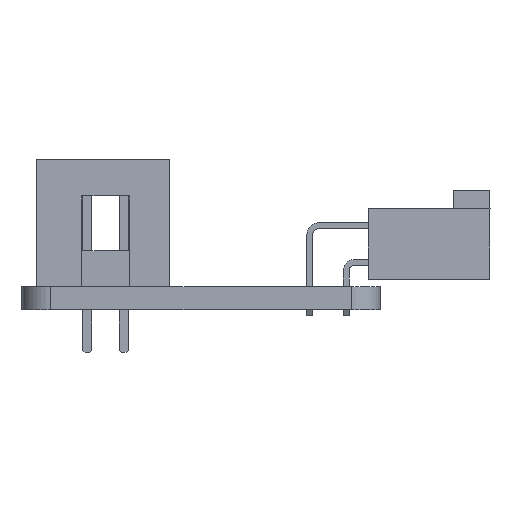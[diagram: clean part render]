
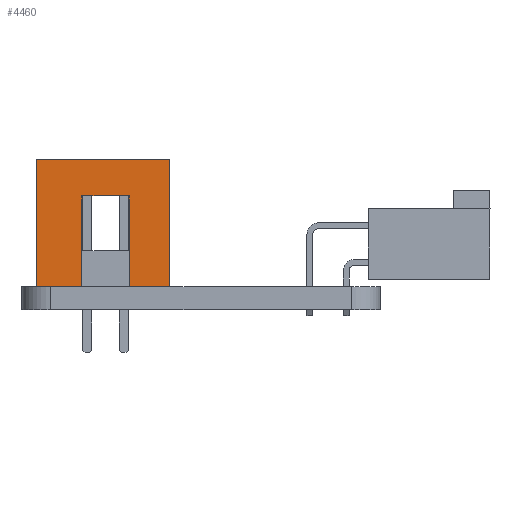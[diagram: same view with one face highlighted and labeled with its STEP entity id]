
A CAD part, left-side view. The second image highlights one B-rep face of the part: STEP entity #4460.
In plain terms, the highlighted planar face has unit normal (-1, 0, 0).
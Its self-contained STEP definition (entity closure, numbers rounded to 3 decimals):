
#3571 = VERTEX_POINT('',#3572);
#3572 = CARTESIAN_POINT('',(-16.51,0.,-1.651));
#3597 = VERTEX_POINT('',#3598);
#3598 = CARTESIAN_POINT('',(-16.51,6.35,-1.651));
#3604 = EDGE_CURVE('',#3597,#3571,#3605,.T.);
#3605 = LINE('',#3606,#3607);
#3606 = CARTESIAN_POINT('',(-16.51,6.35,-1.651));
#3607 = VECTOR('',#3608,1.);
#3608 = DIRECTION('',(-0.,-1.,-0.));
#3650 = VERTEX_POINT('',#3651);
#3651 = CARTESIAN_POINT('',(-16.51,0.,1.651));
#3657 = EDGE_CURVE('',#3658,#3650,#3660,.T.);
#3658 = VERTEX_POINT('',#3659);
#3659 = CARTESIAN_POINT('',(-16.51,6.35,1.651));
#3660 = LINE('',#3661,#3662);
#3661 = CARTESIAN_POINT('',(-16.51,6.35,1.651));
#3662 = VECTOR('',#3663,1.);
#3663 = DIRECTION('',(-0.,-1.,-0.));
#4104 = EDGE_CURVE('',#3597,#3658,#4105,.T.);
#4105 = LINE('',#4106,#4107);
#4106 = CARTESIAN_POINT('',(-16.51,6.35,0.));
#4107 = VECTOR('',#4108,1.);
#4108 = DIRECTION('',(0.,0.,1.));
#4173 = VERTEX_POINT('',#4174);
#4174 = CARTESIAN_POINT('',(-16.51,0.,-4.826));
#4180 = EDGE_CURVE('',#4173,#4181,#4183,.T.);
#4181 = VERTEX_POINT('',#4182);
#4182 = CARTESIAN_POINT('',(-16.51,8.89,-4.826));
#4183 = LINE('',#4184,#4185);
#4184 = CARTESIAN_POINT('',(-16.51,0.,-4.826));
#4185 = VECTOR('',#4186,1.);
#4186 = DIRECTION('',(0.,1.,0.));
#4308 = VERTEX_POINT('',#4309);
#4309 = CARTESIAN_POINT('',(-16.51,0.,4.445));
#4315 = EDGE_CURVE('',#4308,#3650,#4316,.T.);
#4316 = LINE('',#4317,#4318);
#4317 = CARTESIAN_POINT('',(-16.51,0.,4.445));
#4318 = VECTOR('',#4319,1.);
#4319 = DIRECTION('',(0.,0.,-1.));
#4324 = EDGE_CURVE('',#3571,#4173,#4325,.T.);
#4325 = LINE('',#4326,#4327);
#4326 = CARTESIAN_POINT('',(-16.51,0.,4.445));
#4327 = VECTOR('',#4328,1.);
#4328 = DIRECTION('',(0.,0.,-1.));
#4340 = VERTEX_POINT('',#4341);
#4341 = CARTESIAN_POINT('',(-16.51,8.89,4.445));
#4400 = EDGE_CURVE('',#4181,#4340,#4401,.T.);
#4401 = LINE('',#4402,#4403);
#4402 = CARTESIAN_POINT('',(-16.51,8.89,-4.826));
#4403 = VECTOR('',#4404,1.);
#4404 = DIRECTION('',(0.,0.,1.));
#4422 = EDGE_CURVE('',#4340,#4308,#4423,.T.);
#4423 = LINE('',#4424,#4425);
#4424 = CARTESIAN_POINT('',(-16.51,8.89,4.445));
#4425 = VECTOR('',#4426,1.);
#4426 = DIRECTION('',(0.,-1.,0.));
#4460 = ADVANCED_FACE('',(#4461),#4471,.F.);
#4461 = FACE_BOUND('',#4462,.T.);
#4462 = EDGE_LOOP('',(#4463,#4464,#4465,#4466,#4467,#4468,#4469,#4470));
#4463 = ORIENTED_EDGE('',*,*,#4400,.F.);
#4464 = ORIENTED_EDGE('',*,*,#4180,.F.);
#4465 = ORIENTED_EDGE('',*,*,#4324,.F.);
#4466 = ORIENTED_EDGE('',*,*,#3604,.F.);
#4467 = ORIENTED_EDGE('',*,*,#4104,.T.);
#4468 = ORIENTED_EDGE('',*,*,#3657,.T.);
#4469 = ORIENTED_EDGE('',*,*,#4315,.F.);
#4470 = ORIENTED_EDGE('',*,*,#4422,.F.);
#4471 = PLANE('',#4472);
#4472 = AXIS2_PLACEMENT_3D('',#4473,#4474,#4475);
#4473 = CARTESIAN_POINT('',(-16.51,0.,-0.));
#4474 = DIRECTION('',(1.,0.,-0.));
#4475 = DIRECTION('',(-0.,0.,-1.));
